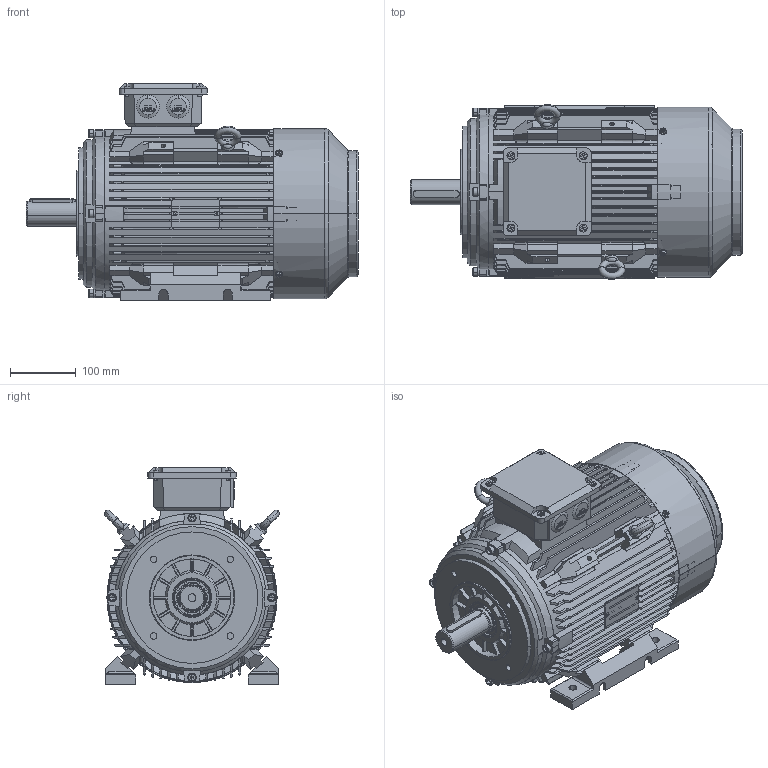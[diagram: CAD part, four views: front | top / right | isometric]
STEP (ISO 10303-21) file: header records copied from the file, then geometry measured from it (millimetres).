
FILE_DESCRIPTION (( 'STEP AP214' ), '1' );
FILE_NAME ('BCT3550.13F634.11.STEP', '2020-04-23T14:14:32', ( '' ), ( '' ), 'SwSTEP 2.0', 'SolidWorks 2019', '' );
FILE_SCHEMA (( 'AUTOMOTIVE_DESIGN' ));
Length unit declared in the file: millimetre
Products named in the file (1): BCT3550.13F634.11
Bounding box: 505 x 265.93 x 330.04 mm (x, y, z)
Volume: 4929836 mm3; surface area: 1788166 mm2
Topology: 35 solids, 35 shells, 4219 faces, 11687 edges, 7637 vertices
Faces by surface type: plane 2073, cylinder 1527, cone 355, torus 150, bspline 114
Entity records: 160282 total; most frequent: CARTESIAN_POINT 52580, ORIENTED_EDGE 23278, DIRECTION 21278, EDGE_CURVE 11639, VERTEX_POINT 7637, AXIS2_PLACEMENT_3D 7270, LINE 6738, VECTOR 6738
